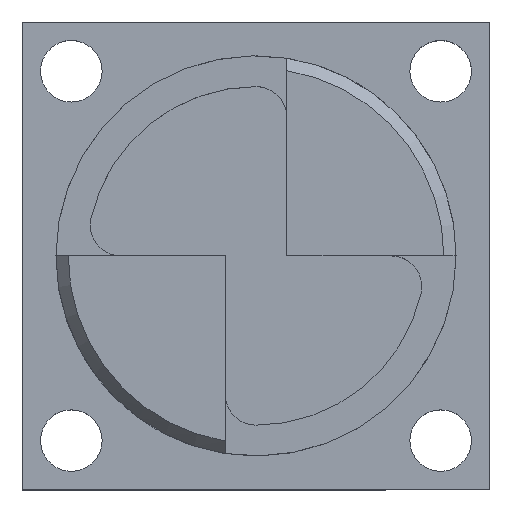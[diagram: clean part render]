
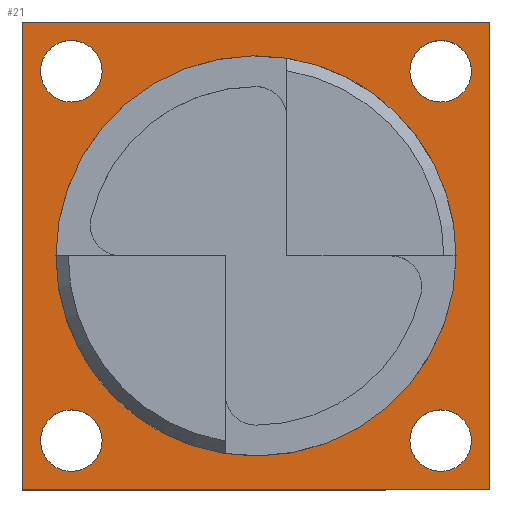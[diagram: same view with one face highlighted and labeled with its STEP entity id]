
A CAD part, top view. The second image highlights one B-rep face of the part: STEP entity #21.
In plain terms, the highlighted planar face has unit normal (0, 0, 1).
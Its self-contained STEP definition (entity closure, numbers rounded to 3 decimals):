
#5 = FACE_BOUND ( 'NONE', #153, .T. ) ;
#21 = ADVANCED_FACE ( 'NONE', ( #59, #5, #923, #725, #1281, #1545 ), #1521, .T. ) ;
#45 = DIRECTION ( 'NONE',  ( 0., 0., 1. ) ) ;
#52 = ORIENTED_EDGE ( 'NONE', *, *, #113, .F. ) ;
#59 = FACE_BOUND ( 'NONE', #1887, .T. ) ;
#70 = AXIS2_PLACEMENT_3D ( 'NONE', #150, #577, #1013 ) ;
#84 = AXIS2_PLACEMENT_3D ( 'NONE', #898, #1779, #763 ) ;
#113 = EDGE_CURVE ( 'NONE', #724, #1640, #1684, .T. ) ;
#126 = EDGE_LOOP ( 'NONE', ( #1223, #1647, #1570, #1420 ) ) ;
#133 = CARTESIAN_POINT ( 'NONE',  ( 0., 0., -10. ) ) ;
#150 = CARTESIAN_POINT ( 'NONE',  ( 30., -30., -10. ) ) ;
#153 = EDGE_LOOP ( 'NONE', ( #1455, #181 ) ) ;
#171 = DIRECTION ( 'NONE',  ( 0., 0., 1. ) ) ;
#174 = CARTESIAN_POINT ( 'NONE',  ( 25., -30., -10. ) ) ;
#181 = ORIENTED_EDGE ( 'NONE', *, *, #1549, .F. ) ;
#198 = VERTEX_POINT ( 'NONE', #399 ) ;
#199 = CIRCLE ( 'NONE', #1674, 5. ) ;
#221 = AXIS2_PLACEMENT_3D ( 'NONE', #798, #1690, #960 ) ;
#248 = EDGE_CURVE ( 'NONE', #1585, #1016, #516, .T. ) ;
#251 = CIRCLE ( 'NONE', #70, 5. ) ;
#252 = DIRECTION ( 'NONE',  ( 0., 0., 1. ) ) ;
#281 = AXIS2_PLACEMENT_3D ( 'NONE', #1172, #171, #1028 ) ;
#284 = DIRECTION ( 'NONE',  ( -1., 0., 0. ) ) ;
#297 = VERTEX_POINT ( 'NONE', #1183 ) ;
#301 = VERTEX_POINT ( 'NONE', #333 ) ;
#304 = DIRECTION ( 'NONE',  ( 0., 0., 1. ) ) ;
#312 = DIRECTION ( 'NONE',  ( 1., 0., 0. ) ) ;
#313 = CARTESIAN_POINT ( 'NONE',  ( -25., -30., -10. ) ) ;
#315 = CARTESIAN_POINT ( 'NONE',  ( 38., 38., -10. ) ) ;
#326 = CIRCLE ( 'NONE', #221, 5. ) ;
#333 = CARTESIAN_POINT ( 'NONE',  ( 35., 30., -10. ) ) ;
#377 = AXIS2_PLACEMENT_3D ( 'NONE', #1148, #1294, #791 ) ;
#399 = CARTESIAN_POINT ( 'NONE',  ( 32.5, 0., -10. ) ) ;
#443 = DIRECTION ( 'NONE',  ( 1., 0., 0. ) ) ;
#458 = LINE ( 'NONE', #1599, #630 ) ;
#461 = CARTESIAN_POINT ( 'NONE',  ( -35., 30., -10. ) ) ;
#504 = AXIS2_PLACEMENT_3D ( 'NONE', #591, #252, #1847 ) ;
#511 = EDGE_CURVE ( 'NONE', #1016, #1539, #663, .T. ) ;
#516 = LINE ( 'NONE', #933, #964 ) ;
#524 = EDGE_CURVE ( 'NONE', #1640, #724, #326, .T. ) ;
#532 = DIRECTION ( 'NONE',  ( 0., 1., 0. ) ) ;
#534 = DIRECTION ( 'NONE',  ( 0., -1., 0. ) ) ;
#577 = DIRECTION ( 'NONE',  ( 0., 0., 1. ) ) ;
#579 = AXIS2_PLACEMENT_3D ( 'NONE', #1473, #45, #1629 ) ;
#591 = CARTESIAN_POINT ( 'NONE',  ( 0., 0., -10. ) ) ;
#630 = VECTOR ( 'NONE', #284, 1000. ) ;
#633 = DIRECTION ( 'NONE',  ( 0., 0., 1. ) ) ;
#653 = DIRECTION ( 'NONE',  ( 1., 0., 0. ) ) ;
#660 = AXIS2_PLACEMENT_3D ( 'NONE', #1017, #304, #443 ) ;
#661 = EDGE_LOOP ( 'NONE', ( #1189, #936 ) ) ;
#662 = VERTEX_POINT ( 'NONE', #770 ) ;
#663 = LINE ( 'NONE', #1309, #1824 ) ;
#695 = EDGE_CURVE ( 'NONE', #297, #301, #801, .T. ) ;
#724 = VERTEX_POINT ( 'NONE', #867 ) ;
#725 = FACE_BOUND ( 'NONE', #1246, .T. ) ;
#734 = EDGE_CURVE ( 'NONE', #1586, #1086, #1505, .T. ) ;
#741 = CARTESIAN_POINT ( 'NONE',  ( -38., -38., -10. ) ) ;
#753 = CARTESIAN_POINT ( 'NONE',  ( -35., -30., -10. ) ) ;
#754 = VERTEX_POINT ( 'NONE', #753 ) ;
#763 = DIRECTION ( 'NONE',  ( 1., 0., 0. ) ) ;
#770 = CARTESIAN_POINT ( 'NONE',  ( -32.5, 0., -10. ) ) ;
#791 = DIRECTION ( 'NONE',  ( 1., 0., 0. ) ) ;
#798 = CARTESIAN_POINT ( 'NONE',  ( -30., 30., -10. ) ) ;
#801 = CIRCLE ( 'NONE', #84, 5. ) ;
#832 = AXIS2_PLACEMENT_3D ( 'NONE', #889, #1763, #312 ) ;
#867 = CARTESIAN_POINT ( 'NONE',  ( -25., 30., -10. ) ) ;
#878 = ORIENTED_EDGE ( 'NONE', *, *, #1608, .F. ) ;
#889 = CARTESIAN_POINT ( 'NONE',  ( -30., -30., -10. ) ) ;
#898 = CARTESIAN_POINT ( 'NONE',  ( 30., 30., -10. ) ) ;
#917 = DIRECTION ( 'NONE',  ( 1., 0., 0. ) ) ;
#923 = FACE_BOUND ( 'NONE', #661, .T. ) ;
#925 = CIRCLE ( 'NONE', #660, 32.5 ) ;
#933 = CARTESIAN_POINT ( 'NONE',  ( -38., 38., -10. ) ) ;
#936 = ORIENTED_EDGE ( 'NONE', *, *, #695, .F. ) ;
#960 = DIRECTION ( 'NONE',  ( 1., 0., 0. ) ) ;
#964 = VECTOR ( 'NONE', #1503, 1000. ) ;
#1013 = DIRECTION ( 'NONE',  ( 1., 0., 0. ) ) ;
#1016 = VERTEX_POINT ( 'NONE', #315 ) ;
#1017 = CARTESIAN_POINT ( 'NONE',  ( 0., 0., -10. ) ) ;
#1028 = DIRECTION ( 'NONE',  ( 1., 0., 0. ) ) ;
#1031 = CIRCLE ( 'NONE', #377, 5. ) ;
#1084 = CIRCLE ( 'NONE', #504, 32.5 ) ;
#1086 = VERTEX_POINT ( 'NONE', #174 ) ;
#1090 = EDGE_CURVE ( 'NONE', #754, #1556, #1867, .T. ) ;
#1105 = VECTOR ( 'NONE', #532, 1000. ) ;
#1133 = EDGE_LOOP ( 'NONE', ( #1777, #1424 ) ) ;
#1148 = CARTESIAN_POINT ( 'NONE',  ( -30., -30., -10. ) ) ;
#1160 = CARTESIAN_POINT ( 'NONE',  ( 35., -30., -10. ) ) ;
#1172 = CARTESIAN_POINT ( 'NONE',  ( 30., -30., -10. ) ) ;
#1183 = CARTESIAN_POINT ( 'NONE',  ( 25., 30., -10. ) ) ;
#1189 = ORIENTED_EDGE ( 'NONE', *, *, #1529, .F. ) ;
#1223 = ORIENTED_EDGE ( 'NONE', *, *, #1744, .F. ) ;
#1228 = DIRECTION ( 'NONE',  ( 0., 0., 1. ) ) ;
#1246 = EDGE_LOOP ( 'NONE', ( #52, #1496 ) ) ;
#1281 = FACE_OUTER_BOUND ( 'NONE', #126, .T. ) ;
#1294 = DIRECTION ( 'NONE',  ( 0., 0., 1. ) ) ;
#1309 = CARTESIAN_POINT ( 'NONE',  ( 38., 38., -10. ) ) ;
#1334 = EDGE_CURVE ( 'NONE', #662, #198, #1084, .T. ) ;
#1393 = CARTESIAN_POINT ( 'NONE',  ( 38., -38., -10. ) ) ;
#1394 = AXIS2_PLACEMENT_3D ( 'NONE', #133, #633, #917 ) ;
#1420 = ORIENTED_EDGE ( 'NONE', *, *, #248, .F. ) ;
#1424 = ORIENTED_EDGE ( 'NONE', *, *, #1334, .F. ) ;
#1455 = ORIENTED_EDGE ( 'NONE', *, *, #734, .F. ) ;
#1473 = CARTESIAN_POINT ( 'NONE',  ( -30., 30., -10. ) ) ;
#1476 = VERTEX_POINT ( 'NONE', #741 ) ;
#1496 = ORIENTED_EDGE ( 'NONE', *, *, #524, .F. ) ;
#1503 = DIRECTION ( 'NONE',  ( 1., 0., 0. ) ) ;
#1505 = CIRCLE ( 'NONE', #281, 5. ) ;
#1519 = EDGE_CURVE ( 'NONE', #1539, #1476, #458, .T. ) ;
#1521 = PLANE ( 'NONE',  #1394 ) ;
#1529 = EDGE_CURVE ( 'NONE', #301, #297, #199, .T. ) ;
#1539 = VERTEX_POINT ( 'NONE', #1393 ) ;
#1545 = FACE_BOUND ( 'NONE', #1133, .T. ) ;
#1549 = EDGE_CURVE ( 'NONE', #1086, #1586, #251, .T. ) ;
#1556 = VERTEX_POINT ( 'NONE', #313 ) ;
#1560 = CARTESIAN_POINT ( 'NONE',  ( -38., 38., -10. ) ) ;
#1570 = ORIENTED_EDGE ( 'NONE', *, *, #511, .F. ) ;
#1585 = VERTEX_POINT ( 'NONE', #1594 ) ;
#1586 = VERTEX_POINT ( 'NONE', #1160 ) ;
#1594 = CARTESIAN_POINT ( 'NONE',  ( -38., 38., -10. ) ) ;
#1599 = CARTESIAN_POINT ( 'NONE',  ( -38., -38., -10. ) ) ;
#1607 = ORIENTED_EDGE ( 'NONE', *, *, #1090, .F. ) ;
#1608 = EDGE_CURVE ( 'NONE', #1556, #754, #1031, .T. ) ;
#1629 = DIRECTION ( 'NONE',  ( 1., 0., 0. ) ) ;
#1640 = VERTEX_POINT ( 'NONE', #461 ) ;
#1647 = ORIENTED_EDGE ( 'NONE', *, *, #1519, .F. ) ;
#1665 = EDGE_CURVE ( 'NONE', #198, #662, #925, .T. ) ;
#1672 = CARTESIAN_POINT ( 'NONE',  ( 30., 30., -10. ) ) ;
#1674 = AXIS2_PLACEMENT_3D ( 'NONE', #1672, #1228, #653 ) ;
#1684 = CIRCLE ( 'NONE', #579, 5. ) ;
#1690 = DIRECTION ( 'NONE',  ( 0., 0., 1. ) ) ;
#1744 = EDGE_CURVE ( 'NONE', #1476, #1585, #1881, .T. ) ;
#1763 = DIRECTION ( 'NONE',  ( 0., 0., 1. ) ) ;
#1777 = ORIENTED_EDGE ( 'NONE', *, *, #1665, .F. ) ;
#1779 = DIRECTION ( 'NONE',  ( 0., 0., 1. ) ) ;
#1824 = VECTOR ( 'NONE', #534, 1000. ) ;
#1847 = DIRECTION ( 'NONE',  ( 1., 0., 0. ) ) ;
#1867 = CIRCLE ( 'NONE', #832, 5. ) ;
#1881 = LINE ( 'NONE', #1560, #1105 ) ;
#1887 = EDGE_LOOP ( 'NONE', ( #878, #1607 ) ) ;
